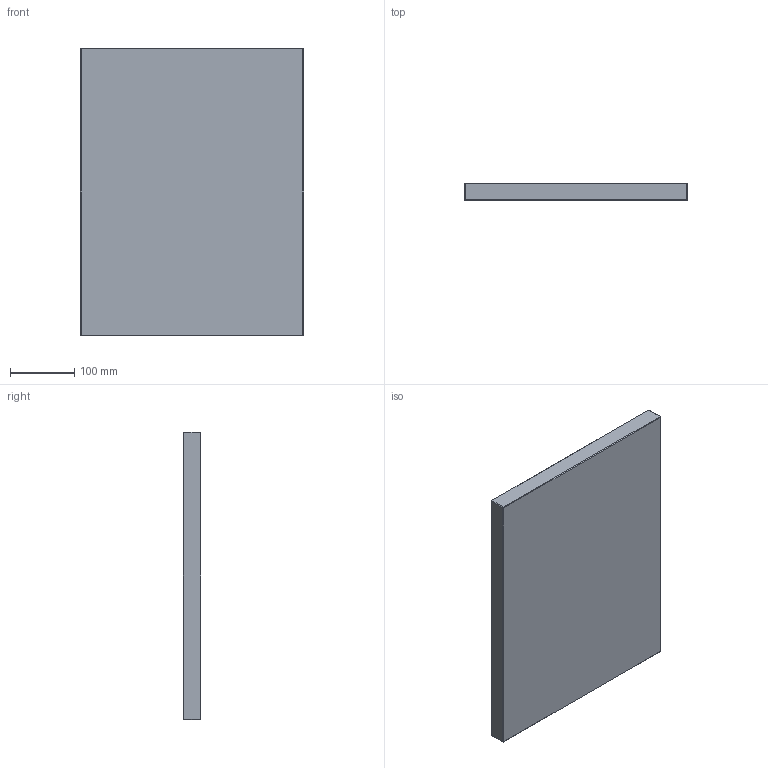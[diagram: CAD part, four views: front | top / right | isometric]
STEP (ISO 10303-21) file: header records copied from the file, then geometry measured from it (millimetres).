
FILE_DESCRIPTION (( 'STEP AP214' ), '1' );
FILE_NAME ('PBAV-P-346x346x27.STEP', '2020-03-25T16:35:46', ( 'August' ), ( '' ), 'SwSTEP 2.0', 'SolidWorks 2018', '' );
FILE_SCHEMA (( 'AUTOMOTIVE_DESIGN' ));
Length unit declared in the file: millimetre
Products named in the file (1): PBAV-P-346x346x27
Bounding box: 346 x 27 x 446 mm (x, y, z)
Volume: 4164899.3 mm3; surface area: 349478 mm2
Topology: 1 solids, 1 shells, 26 faces, 48 edges, 24 vertices
Faces by surface type: plane 26
Entity records: 634 total; most frequent: DIRECTION 102, CARTESIAN_POINT 99, ORIENTED_EDGE 96, EDGE_CURVE 48, VECTOR 48, LINE 48, AXIS2_PLACEMENT_3D 27, PLANE 26
